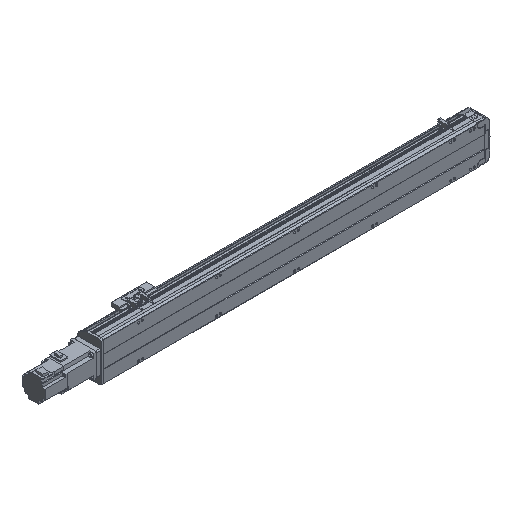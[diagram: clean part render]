
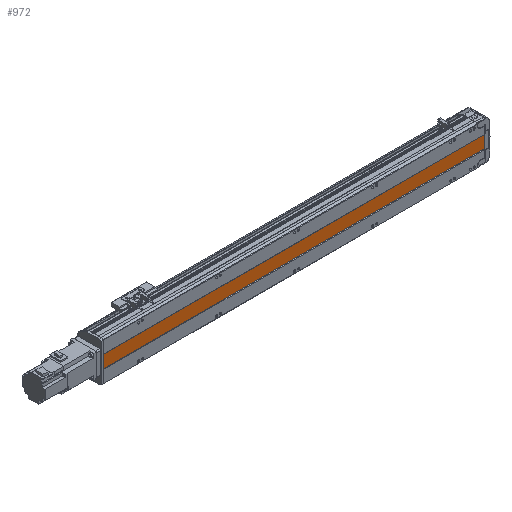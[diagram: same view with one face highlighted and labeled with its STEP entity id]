
A CAD part, isometric view. The second image highlights one B-rep face of the part: STEP entity #972.
In plain terms, the highlighted planar face has unit normal (0, -1, 0).
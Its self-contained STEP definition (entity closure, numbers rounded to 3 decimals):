
#972 = ADVANCED_FACE( '', ( #2542 ), #2543, .F. );
#2542 = FACE_OUTER_BOUND( '', #4977, .T. );
#2543 = PLANE( '', #4978 );
#4977 = EDGE_LOOP( '', ( #7556, #7557, #7558, #7559 ) );
#4978 = AXIS2_PLACEMENT_3D( '', #7560, #7561, #7562 );
#7556 = ORIENTED_EDGE( '', *, *, #13994, .F. );
#7557 = ORIENTED_EDGE( '', *, *, #13995, .T. );
#7558 = ORIENTED_EDGE( '', *, *, #13996, .T. );
#7559 = ORIENTED_EDGE( '', *, *, #13997, .F. );
#7560 = CARTESIAN_POINT( '', ( 997., 1., 16. ) );
#7561 = DIRECTION( '', ( 0., 1., 0. ) );
#7562 = DIRECTION( '', ( 0., 0., 1. ) );
#13994 = EDGE_CURVE( '', #16657, #16658, #16659, .T. );
#13995 = EDGE_CURVE( '', #16657, #16660, #16661, .T. );
#13996 = EDGE_CURVE( '', #16660, #16662, #16663, .T. );
#13997 = EDGE_CURVE( '', #16658, #16662, #16664, .T. );
#16657 = VERTEX_POINT( '', #20586 );
#16658 = VERTEX_POINT( '', #20587 );
#16659 = LINE( '', #20588, #20589 );
#16660 = VERTEX_POINT( '', #20590 );
#16661 = LINE( '', #20591, #20592 );
#16662 = VERTEX_POINT( '', #20593 );
#16663 = LINE( '', #20594, #20595 );
#16664 = LINE( '', #20596, #20597 );
#20586 = CARTESIAN_POINT( '', ( 983.5, 1., 16. ) );
#20587 = CARTESIAN_POINT( '', ( 983.5, 1., -16. ) );
#20588 = CARTESIAN_POINT( '', ( 983.5, 1., 16. ) );
#20589 = VECTOR( '', #26008, 1000. );
#20590 = CARTESIAN_POINT( '', ( 6., 1., 16. ) );
#20591 = CARTESIAN_POINT( '', ( 997., 1., 16. ) );
#20592 = VECTOR( '', #26009, 1000. );
#20593 = CARTESIAN_POINT( '', ( 6., 1., -16. ) );
#20594 = CARTESIAN_POINT( '', ( 6., 1., 16. ) );
#20595 = VECTOR( '', #26010, 1000. );
#20596 = CARTESIAN_POINT( '', ( 997., 1., -16. ) );
#20597 = VECTOR( '', #26011, 1000. );
#26008 = DIRECTION( '', ( 0., 0., -1. ) );
#26009 = DIRECTION( '', ( -1., 0., 0. ) );
#26010 = DIRECTION( '', ( 0., 0., -1. ) );
#26011 = DIRECTION( '', ( -1., 0., 0. ) );
